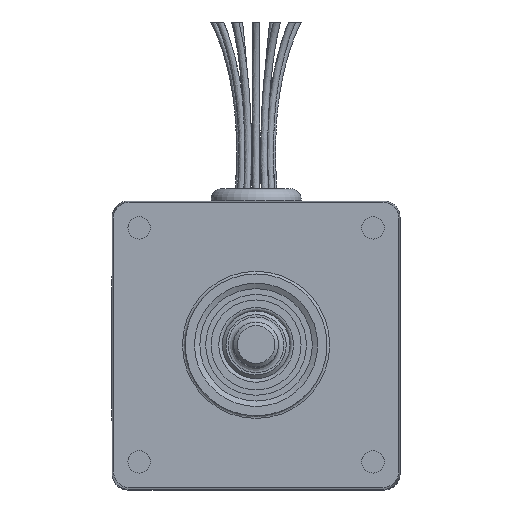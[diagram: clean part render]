
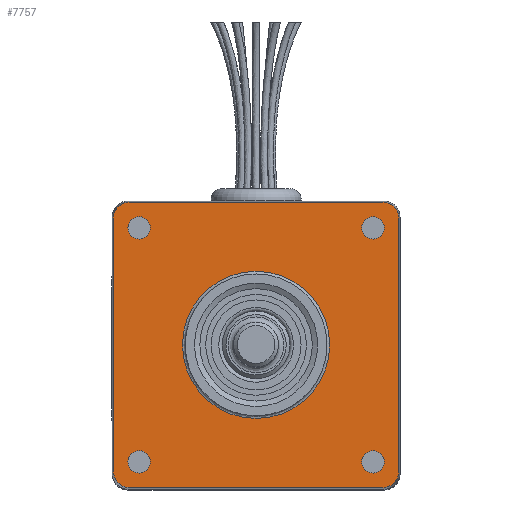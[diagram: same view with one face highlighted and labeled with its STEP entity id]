
A CAD part, top view. The second image highlights one B-rep face of the part: STEP entity #7757.
In plain terms, the highlighted planar face has unit normal (0, 0, 1).
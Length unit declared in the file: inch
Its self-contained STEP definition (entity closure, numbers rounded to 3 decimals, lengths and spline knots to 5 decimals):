
#7499=CARTESIAN_POINT('',(-0.5875,-0.65,0.37));
#7500=VERTEX_POINT('',#7499);
#7501=CARTESIAN_POINT('',(-0.65,-0.65,0.37));
#7502=DIRECTION('',(0.0,0.0,-1.0));
#7503=DIRECTION('',(-1.0,0.0,0.0));
#7504=AXIS2_PLACEMENT_3D('',#7501,#7502,#7503);
#7505=CIRCLE('',#7504,0.0625);
#7506=EDGE_CURVE('',#7500,#7500,#7505,.T.);
#7540=CARTESIAN_POINT('',(0.7125,0.65,0.37));
#7541=VERTEX_POINT('',#7540);
#7542=CARTESIAN_POINT('',(0.65,0.65,0.37));
#7543=DIRECTION('',(0.0,0.0,-1.0));
#7544=DIRECTION('',(-1.0,0.0,0.0));
#7545=AXIS2_PLACEMENT_3D('',#7542,#7543,#7544);
#7546=CIRCLE('',#7545,0.0625);
#7547=EDGE_CURVE('',#7541,#7541,#7546,.T.);
#7581=CARTESIAN_POINT('',(0.7125,-0.65,0.37));
#7582=VERTEX_POINT('',#7581);
#7583=CARTESIAN_POINT('',(0.65,-0.65,0.37));
#7584=DIRECTION('',(0.0,0.0,-1.0));
#7585=DIRECTION('',(-1.0,0.0,0.0));
#7586=AXIS2_PLACEMENT_3D('',#7583,#7584,#7585);
#7587=CIRCLE('',#7586,0.0625);
#7588=EDGE_CURVE('',#7582,#7582,#7587,.T.);
#7622=CARTESIAN_POINT('',(-0.5875,0.65,0.37));
#7623=VERTEX_POINT('',#7622);
#7624=CARTESIAN_POINT('',(-0.65,0.65,0.37));
#7625=DIRECTION('',(0.0,0.0,-1.0));
#7626=DIRECTION('',(-1.0,0.0,0.0));
#7627=AXIS2_PLACEMENT_3D('',#7624,#7625,#7626);
#7628=CIRCLE('',#7627,0.0625);
#7629=EDGE_CURVE('',#7623,#7623,#7628,.T.);
#7642=CARTESIAN_POINT('',(-0.70356,-0.79354,0.37));
#7643=VERTEX_POINT('',#7642);
#7644=CARTESIAN_POINT('',(-0.79354,-0.70356,0.37));
#7645=VERTEX_POINT('',#7644);
#7646=CARTESIAN_POINT('',(-0.70353,-0.70353,0.37));
#7647=DIRECTION('',(0.0,0.0,-1.));
#7648=DIRECTION('',(-0.707,-0.707,0.0));
#7649=AXIS2_PLACEMENT_3D('',#7646,#7647,#7648);
#7650=ELLIPSE('',#7649,0.09003,0.09);
#7651=EDGE_CURVE('',#7643,#7645,#7650,.T.);
#7669=CARTESIAN_POINT('',(0.,0.0,0.37));
#7670=DIRECTION('',(0.0,0.0,1.0));
#7671=DIRECTION('',(1.0,0.0,0.0));
#7672=AXIS2_PLACEMENT_3D('',#7669,#7670,#7671);
#7673=PLANE('',#7672);
#7674=ORIENTED_EDGE('',*,*,#7651,.F.);
#7675=CARTESIAN_POINT('',(0.70356,-0.79354,0.37));
#7676=VERTEX_POINT('',#7675);
#7677=CARTESIAN_POINT('',(0.70356,-0.79354,0.37));
#7678=DIRECTION('',(-1.0,0.0,0.0));
#7679=VECTOR('',#7678,1.40711);
#7680=LINE('',#7677,#7679);
#7681=EDGE_CURVE('',#7676,#7643,#7680,.T.);
#7682=ORIENTED_EDGE('',*,*,#7681,.F.);
#7683=CARTESIAN_POINT('',(0.79354,-0.70356,0.37));
#7684=VERTEX_POINT('',#7683);
#7685=CARTESIAN_POINT('',(0.70353,-0.70353,0.37));
#7686=DIRECTION('',(0.0,0.0,-1.));
#7687=DIRECTION('',(0.707,-0.707,0.0));
#7688=AXIS2_PLACEMENT_3D('',#7685,#7686,#7687);
#7689=ELLIPSE('',#7688,0.09003,0.09);
#7690=EDGE_CURVE('',#7684,#7676,#7689,.T.);
#7691=ORIENTED_EDGE('',*,*,#7690,.F.);
#7692=CARTESIAN_POINT('',(0.79354,0.70356,0.37));
#7693=VERTEX_POINT('',#7692);
#7694=CARTESIAN_POINT('',(0.79354,0.70356,0.37));
#7695=DIRECTION('',(0.0,-1.0,0.0));
#7696=VECTOR('',#7695,1.40711);
#7697=LINE('',#7694,#7696);
#7698=EDGE_CURVE('',#7693,#7684,#7697,.T.);
#7699=ORIENTED_EDGE('',*,*,#7698,.F.);
#7700=CARTESIAN_POINT('',(0.70356,0.79354,0.37));
#7701=VERTEX_POINT('',#7700);
#7702=CARTESIAN_POINT('',(0.70353,0.70353,0.37));
#7703=DIRECTION('',(0.0,0.0,-1.));
#7704=DIRECTION('',(0.707,0.707,0.0));
#7705=AXIS2_PLACEMENT_3D('',#7702,#7703,#7704);
#7706=ELLIPSE('',#7705,0.09003,0.09);
#7707=EDGE_CURVE('',#7701,#7693,#7706,.T.);
#7708=ORIENTED_EDGE('',*,*,#7707,.F.);
#7709=CARTESIAN_POINT('',(-0.70356,0.79354,0.37));
#7710=VERTEX_POINT('',#7709);
#7711=CARTESIAN_POINT('',(-0.70356,0.79354,0.37));
#7712=DIRECTION('',(1.0,0.0,0.0));
#7713=VECTOR('',#7712,1.40711);
#7714=LINE('',#7711,#7713);
#7715=EDGE_CURVE('',#7710,#7701,#7714,.T.);
#7716=ORIENTED_EDGE('',*,*,#7715,.F.);
#7717=CARTESIAN_POINT('',(-0.79354,0.70356,0.37));
#7718=VERTEX_POINT('',#7717);
#7719=CARTESIAN_POINT('',(-0.70353,0.70353,0.37));
#7720=DIRECTION('',(0.0,0.0,-1.));
#7721=DIRECTION('',(-0.707,0.707,0.0));
#7722=AXIS2_PLACEMENT_3D('',#7719,#7720,#7721);
#7723=ELLIPSE('',#7722,0.09003,0.09);
#7724=EDGE_CURVE('',#7718,#7710,#7723,.T.);
#7725=ORIENTED_EDGE('',*,*,#7724,.F.);
#7726=CARTESIAN_POINT('',(-0.79354,-0.70356,0.37));
#7727=DIRECTION('',(0.0,1.0,0.0));
#7728=VECTOR('',#7727,1.40711);
#7729=LINE('',#7726,#7728);
#7730=EDGE_CURVE('',#7645,#7718,#7729,.T.);
#7731=ORIENTED_EDGE('',*,*,#7730,.F.);
#7732=EDGE_LOOP('',(#7674,#7682,#7691,#7699,#7708,#7716,#7725,#7731));
#7733=FACE_OUTER_BOUND('',#7732,.T.);
#7734=ORIENTED_EDGE('',*,*,#7506,.T.);
#7735=EDGE_LOOP('',(#7734));
#7736=FACE_BOUND('',#7735,.T.);
#7737=ORIENTED_EDGE('',*,*,#7547,.T.);
#7738=EDGE_LOOP('',(#7737));
#7739=FACE_BOUND('',#7738,.T.);
#7740=ORIENTED_EDGE('',*,*,#7588,.T.);
#7741=EDGE_LOOP('',(#7740));
#7742=FACE_BOUND('',#7741,.T.);
#7743=ORIENTED_EDGE('',*,*,#7629,.T.);
#7744=EDGE_LOOP('',(#7743));
#7745=FACE_BOUND('',#7744,.T.);
#7746=CARTESIAN_POINT('',(0.409,0.,0.37));
#7747=VERTEX_POINT('',#7746);
#7748=CARTESIAN_POINT('',(0.0,0.0,0.37));
#7749=DIRECTION('',(0.0,0.0,1.0));
#7750=DIRECTION('',(-1.0,0.0,0.0));
#7751=AXIS2_PLACEMENT_3D('',#7748,#7749,#7750);
#7752=CIRCLE('',#7751,0.409);
#7753=EDGE_CURVE('',#7747,#7747,#7752,.T.);
#7754=ORIENTED_EDGE('',*,*,#7753,.F.);
#7755=EDGE_LOOP('',(#7754));
#7756=FACE_BOUND('',#7755,.T.);
#7757=ADVANCED_FACE('',(#7733,#7736,#7739,#7742,#7745,#7756),#7673,.T.);
